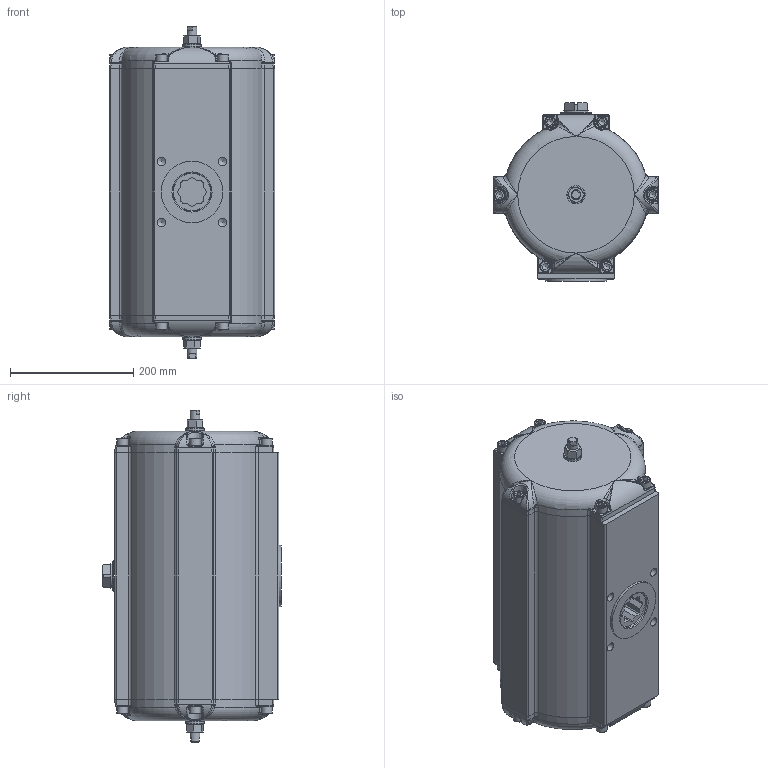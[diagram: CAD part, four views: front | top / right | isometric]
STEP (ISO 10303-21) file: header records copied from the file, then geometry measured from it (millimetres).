
FILE_DESCRIPTION((''),'2;1');
FILE_NAME('C:\Dokumente und Einstellungen\ko-p\Desktop\SAD_40-180°_BR03.stp','2011-02-03T11:03:29',('war'),(''),'Autodesk Inventor 2010','Autodesk Inventor 2010','');
FILE_SCHEMA(('AUTOMOTIVE_DESIGN { 1 0 10303 214 1 1 1 1 }'));
Length unit declared in the file: millimetre
Products named in the file (1): ENG-034742_Konturvereinfachung_1
Bounding box: 268 x 289.85 x 538 mm (x, y, z)
Surface area: 701646.5 mm2 (no closed solid volume)
Topology: 0 solids, 30 shells, 593 faces, 1928 edges, 1292 vertices
Faces by surface type: plane 228, bspline 172, cylinder 133, cone 38, torus 22
Full cylindrical faces by diameter (mm): 2.5 x1, 16 x2, 18 x12, 29.7 x2, 37 x1, 39.8 x1, 100 x1, 216 x1
Entity records: 27601 total; most frequent: CARTESIAN_POINT 12358, ORIENTED_EDGE 2946, DIRECTION 2576, EDGE_CURVE 1787, VERTEX_POINT 1243, AXIS2_PLACEMENT_3D 990, EDGE_LOOP 732, VECTOR 596
